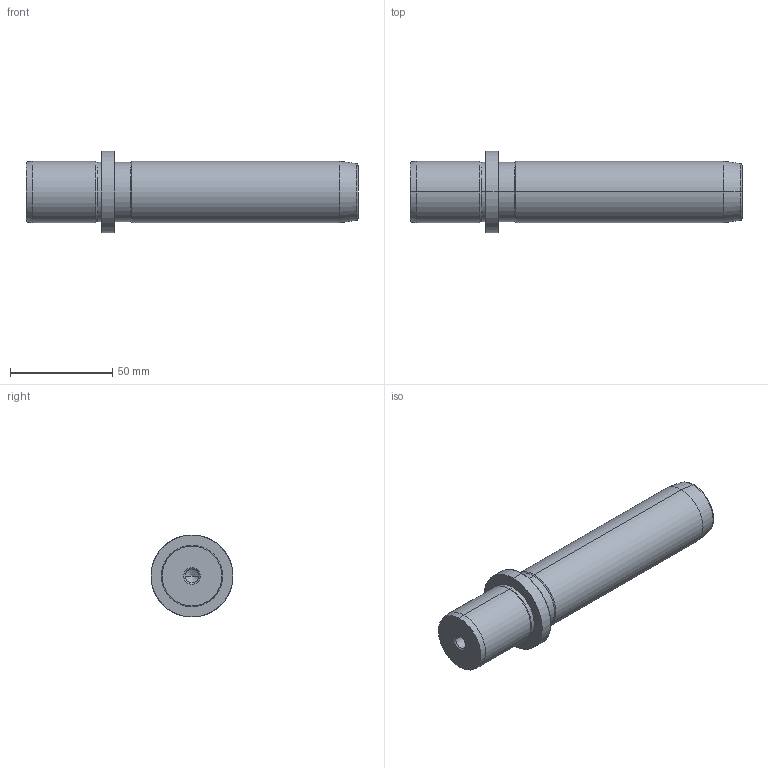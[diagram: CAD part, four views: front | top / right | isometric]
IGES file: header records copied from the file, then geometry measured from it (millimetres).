
Start section: START RECORD GO HERE.
Global section: file name: 719-30x125.igs; native system: DASSAULT SYSTEMES CATIA V5 R20 - www.3ds.com; preprocessor: CATIA Version 5 Release 20 ; author: Utente; organization: NB04-ASUS; date: 20210103.170903; units: millimetre
Bounding box: 162 x 40 x 40 mm (x, y, z)
Surface area: 18849.1 mm2 (no closed solid volume)
Topology: 0 solids, 0 shells, 36 faces, 196 edges, 192 vertices
Faces by surface type: revolution 32, plane 4
